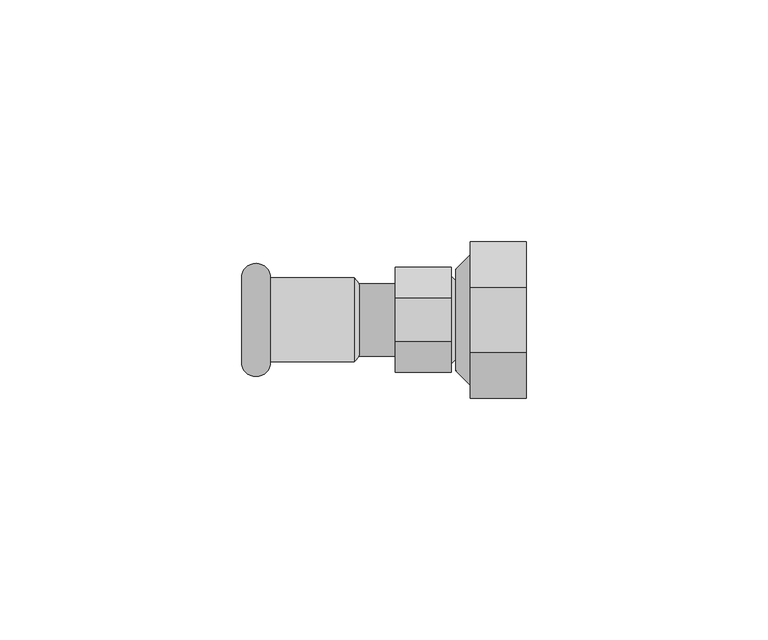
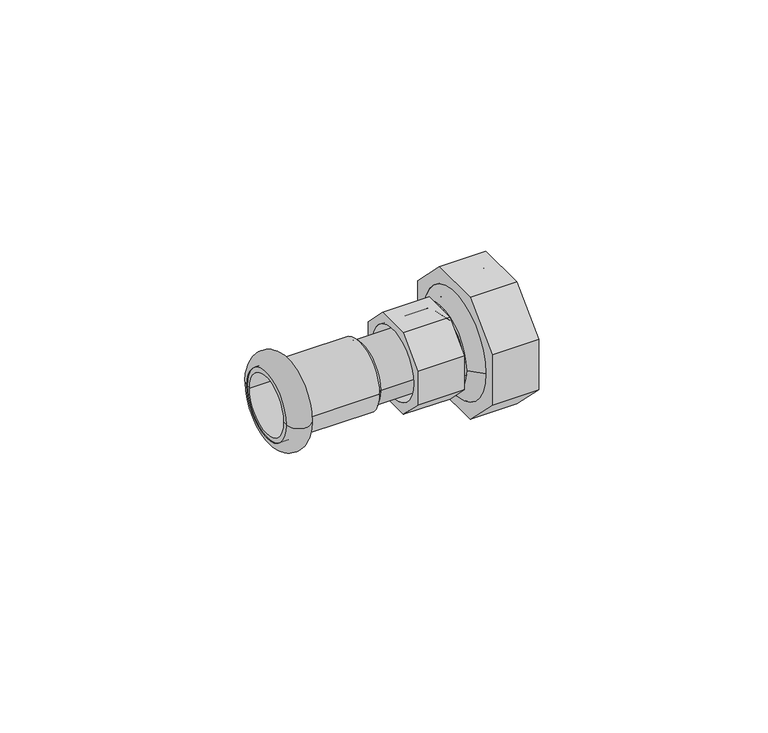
"""IFC4 building model written with IfcOpenShell, lengths in millimetres: pipe fitting geometry."""

from ifc_helpers import new_model, si_unit, point, frame, origin, origin_2d, place, context, project, spatial, polyline, circle_curve, ellipse_curve, trimmed, segment, composite_curve, outline, extrude, source, transform, mapped, element, save
from ifc_brep_helpers import plane_surface, cylinder_surface, revolved_surface, advanced_brep


def pipe_fitting_a139b20b(model_context):
    return source(origin(), model_context, "Body", "SolidModel", [
        advanced_brep(
        [(0.4444444, -10.863961, 4.5), (0.4444444, -4.5, 10.863961), (0.4444444, 4.5, 10.863961), (0.4444444, 10.863961, 4.5), (0.4444444, 10.863961, -4.5), (0.4444444, 4.5, -10.863961), (0.4444444, -4.5, -10.863961), (0.4444444, -10.863961, -4.5), (0.4444444, 9.0, 0.0), (0.4444444, -9.0, 0.0), (12.1111111, -10.863961, 4.5), (12.1111111, -10.863961, -4.5), (12.1111111, -4.5, -10.863961), (12.1111111, 4.5, -10.863961), (12.1111111, 10.863961, -4.5), (12.1111111, 10.863961, 4.5), (12.1111111, 4.5, 10.863961), (12.1111111, -4.5, 10.863961), (12.1111111, 9.0288231, 0.0), (12.1111111, -9.0288231, 0.0), (12.1111111, 9.0, 0.0), (12.1111111, -9.0, 0.0), (12.1111111, 6.0288231, 0.0), (12.1111111, -6.0288231, 0.0), (15.1111111, 6.0288231, 0.0), (15.1111111, -6.0288231, 0.0)],
        [
            (0, 1),
            (1, 2),
            (2, 3),
            (3, 4),
            (4, 5),
            (5, 6),
            (6, 7),
            (7, 0),
            (8, 9, circle_curve(frame((0.4444444, 0.0, 0.0), z_axis=(1.0, 0.0, 0.0), x_axis=(0.0, -1.0000000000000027, 0.0)), 9.0)),
            (9, 8, circle_curve(frame((0.4444444, 0.0, 0.0), z_axis=(1.0, 0.0, 0.0), x_axis=(0.0, -1.0000000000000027, 0.0)), 9.0)),
            (10, 11),
            (11, 12),
            (12, 13),
            (13, 14),
            (14, 15),
            (15, 16),
            (16, 17),
            (17, 10),
            (18, 19, circle_curve(frame((12.1111111, 0.0, 0.0), z_axis=(-1.0, 0.0, 0.0), x_axis=(0.0, -1.0000000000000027, 0.0)), 9.0288231)),
            (19, 18, circle_curve(frame((12.1111111, 0.0, 0.0), z_axis=(-1.0, 0.0, 0.0), x_axis=(0.0, 1.0000000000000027, 0.0)), 9.0288231)),
            (8, 20),
            (20, 21, circle_curve(frame((12.1111111, 0.0, 0.0), z_axis=(1.0, 0.0, 0.0), x_axis=(0.0, -1.0000000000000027, 0.0)), 9.0)),
            (21, 9),
            (21, 20, circle_curve(frame((12.1111111, 0.0, 0.0), z_axis=(1.0, 0.0, 0.0), x_axis=(0.0, -1.0000000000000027, 0.0)), 9.0)),
            (0, 10),
            (17, 1),
            (16, 2),
            (15, 3),
            (14, 4),
            (13, 5),
            (12, 6),
            (11, 7),
            (22, 23, circle_curve(frame((12.1111111, 0.0, 0.0), z_axis=(1.0, 0.0, 0.0), x_axis=(0.0, 1.0000000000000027, 0.0)), 6.0288231)),
            (23, 22, circle_curve(frame((12.1111111, 0.0, 0.0), z_axis=(1.0, 0.0, 0.0), x_axis=(0.0, -1.0000000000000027, 0.0)), 6.0288231)),
            (24, 25, circle_curve(frame((15.1111111, 0.0, 0.0), z_axis=(-1.0, 0.0, 0.0), x_axis=(0.0, -1.0000000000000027, 0.0)), 6.0288231)),
            (25, 19),
            (18, 24),
            (23, 25),
            (24, 22),
            (25, 24, circle_curve(frame((15.1111111, 0.0, 0.0), z_axis=(-1.0, 0.0, 0.0), x_axis=(0.0, 1.0000000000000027, 0.0)), 6.0288231)),
        ],
        [
            plane_surface(frame((0.4444444, -9.0, 0.0), z_axis=(-1.0, 0.0, 0.0), x_axis=(0.0, 0.0, -1.0))),
            plane_surface(frame((12.1111111, -9.0, 0.0), z_axis=(1.0, 0.0, 0.0), x_axis=(0.0, 0.0, 1.0))),
            revolved_surface(polyline([(12.1111111, -9.000000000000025, 0.0), (0.4444443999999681, -9.000000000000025, 0.0)]), (12.1111111, 0.0, 0.0), (1.0000000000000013, 0.0, 0.0)),
            plane_surface(frame((0.4444444, -10.863961, 4.5), z_axis=(0.0, -0.7071067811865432, 0.7071067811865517), x_axis=(1.0, 0.0, 0.0))),
            plane_surface(frame((0.4444444, -4.5, 10.863961), z_axis=(0.0, 0.0, 1.0), x_axis=(1.0, 0.0, 0.0))),
            plane_surface(frame((0.4444444, 4.5, 10.863961), z_axis=(0.0, 0.7071067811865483, 0.7071067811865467), x_axis=(1.0, 0.0, 0.0))),
            plane_surface(frame((0.4444444, 10.863961, 4.5), z_axis=(0.0, 1.0, 0.0), x_axis=(1.0, 0.0, 0.0))),
            plane_surface(frame((0.4444444, 10.863961, -4.5), z_axis=(0.0, 0.7071067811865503, -0.7071067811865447), x_axis=(1.0, 0.0, 0.0))),
            plane_surface(frame((0.4444444, 4.5, -10.863961), z_axis=(0.0, 0.0, -1.0), x_axis=(1.0, 0.0, 0.0))),
            plane_surface(frame((0.4444444, -4.5, -10.863961), z_axis=(0.0, -0.7071067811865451, -0.7071067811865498), x_axis=(1.0, 0.0, 0.0))),
            plane_surface(frame((0.4444444, -10.863961, -4.5), z_axis=(0.0, -1.0, 0.0), x_axis=(1.0, 0.0, 0.0))),
            plane_surface(frame((12.1111111, 0.0, 0.0), z_axis=(-1.0, 0.0, 0.0), x_axis=(0.0, 1.0, 0.0))),
            revolved_surface(polyline([(12.1111111, -9.0288231, 0.0), (15.1111111, -6.0288231, 0.0)]), (12.1111111, 0.0, 0.0), (1.0000000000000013, 0.0, 0.0)),
            revolved_surface(polyline([(15.11111110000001, -6.028823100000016, 0.0), (12.1111111, -6.028823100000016, 0.0)]), (12.1111111, 0.0, 0.0), (1.0000000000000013, 0.0, 0.0)),
            revolved_surface(polyline([(12.1111111, 9.0288231, 0.0), (15.1111111, 6.0288231, 0.0)]), (12.1111111, 0.0, 0.0), (1.0000000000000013, 0.0, 0.0)),
            revolved_surface(polyline([(15.11111110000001, 6.028823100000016, 0.0), (12.1111111, 6.028823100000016, 0.0)]), (12.1111111, 0.0, 0.0), (1.0000000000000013, 0.0, 0.0)),
        ],
        [
            (0, [[1, 2, 3, 4, 5, 6, 7, 8], [9, 10]]),
            (1, [[11, 12, 13, 14, 15, 16, 17, 18], [19, 20]]),
            (2, [[-9, 21, 22, 23]]),
            (2, [[-10, -23, 24, -21]]),
            (3, [[-1, 25, -18, 26]]),
            (4, [[-2, -26, -17, 27]]),
            (5, [[-3, -27, -16, 28]]),
            (6, [[-4, -28, -15, 29]]),
            (7, [[-5, -29, -14, 30]]),
            (8, [[-6, -30, -13, 31]]),
            (9, [[-7, -31, -12, 32]]),
            (10, [[-8, -32, -11, -25]]),
            (11, [[-22, -24], [33, 34]]),
            (12, [[35, 36, -19, 37]]),
            (13, [[-34, 38, -35, 39]]),
            (14, [[-36, 40, -37, -20]]),
            (15, [[-33, -39, -40, -38]]),
        ],
    ),
        advanced_brep(
        [(27.6666667, 16.2355862, 6.725), (27.6666667, 6.725, 16.2355862), (27.6666667, -6.725, 16.2355862), (27.6666667, -16.2355862, 6.725), (27.6666667, -16.2355862, -6.725), (27.6666667, -6.725, -16.2355862), (27.6666667, 6.725, -16.2355862), (27.6666667, 16.2355862, -6.725), (27.6666667, -13.45, 0.0), (27.6666667, 13.45, 0.0), (16.0, 16.2355862, 6.725), (16.0, 16.2355862, -6.725), (16.0, 6.725, -16.2355862), (16.0, -6.725, -16.2355862), (16.0, -16.2355862, -6.725), (16.0, -16.2355862, 6.725), (16.0, -6.725, 16.2355862), (16.0, 6.725, 16.2355862), (16.0, -13.4788231, 0.0), (16.0, 13.4788231, 0.0), (16.0, -13.45, 0.0), (16.0, 13.45, 0.0), (16.0, -10.4788231, 0.0), (16.0, 10.4788231, 0.0), (13.0, -10.4788231, 0.0), (13.0, 10.4788231, 0.0)],
        [
            (0, 1),
            (1, 2),
            (2, 3),
            (3, 4),
            (4, 5),
            (5, 6),
            (6, 7),
            (7, 0),
            (8, 9, circle_curve(frame((27.6666667, 0.0, 0.0), z_axis=(-1.0, 0.0, 0.0), x_axis=(0.0, 1.0, 0.0)), 13.45)),
            (9, 8, circle_curve(frame((27.6666667, 0.0, 0.0), z_axis=(-1.0, 0.0, 0.0), x_axis=(0.0, 1.0, 0.0)), 13.45)),
            (10, 11),
            (11, 12),
            (12, 13),
            (13, 14),
            (14, 15),
            (15, 16),
            (16, 17),
            (17, 10),
            (18, 19, circle_curve(frame((16.0, 0.0, 0.0), z_axis=(1.0, 0.0, 0.0), x_axis=(0.0, 1.0, 0.0)), 13.4788231)),
            (19, 18, circle_curve(frame((16.0, 0.0, 0.0), z_axis=(1.0, 0.0, 0.0), x_axis=(0.0, -1.0, 0.0)), 13.4788231)),
            (8, 20),
            (20, 21, circle_curve(frame((16.0, 0.0, 0.0), z_axis=(-1.0, 0.0, 0.0), x_axis=(0.0, 1.0, 0.0)), 13.45)),
            (21, 9),
            (21, 20, circle_curve(frame((16.0, 0.0, 0.0), z_axis=(-1.0, 0.0, 0.0), x_axis=(0.0, 1.0, 0.0)), 13.45)),
            (0, 10),
            (17, 1),
            (16, 2),
            (15, 3),
            (14, 4),
            (13, 5),
            (12, 6),
            (11, 7),
            (22, 23, circle_curve(frame((16.0, 0.0, 0.0), z_axis=(-1.0, 0.0, 0.0), x_axis=(0.0, -1.0, 0.0)), 10.4788231)),
            (23, 22, circle_curve(frame((16.0, 0.0, 0.0), z_axis=(-1.0, 0.0, 0.0), x_axis=(0.0, 1.0, 0.0)), 10.4788231)),
            (24, 25, circle_curve(frame((13.0, 0.0, 0.0), z_axis=(1.0, 0.0, 0.0), x_axis=(0.0, 1.0, 0.0)), 10.4788231)),
            (25, 19),
            (18, 24),
            (23, 25),
            (24, 22),
            (25, 24, circle_curve(frame((13.0, 0.0, 0.0), z_axis=(1.0, 0.0, 0.0), x_axis=(0.0, -1.0, 0.0)), 10.4788231)),
        ],
        [
            plane_surface(frame((27.6666667, 13.45, 0.0), z_axis=(1.0, 0.0, 0.0), x_axis=(0.0, 0.0, -1.0))),
            plane_surface(frame((16.0, 13.45, 0.0), z_axis=(-1.0, 0.0, 0.0), x_axis=(0.0, 0.0, 1.0))),
            revolved_surface(polyline([(16.0, 13.45, 0.0), (27.6666667, 13.45, 0.0)]), (16.0, 0.0, 0.0), (-1.0, 0.0, 0.0)),
            plane_surface(frame((27.6666667, 16.2355862, 6.725), z_axis=(0.0, 0.7071067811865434, 0.7071067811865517), x_axis=(-1.0, 0.0, 0.0))),
            plane_surface(frame((27.6666667, 6.725, 16.2355862), z_axis=(0.0, 0.0, 1.0), x_axis=(-1.0, 0.0, 0.0))),
            plane_surface(frame((27.6666667, -6.725, 16.2355862), z_axis=(0.0, -0.7071067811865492, 0.7071067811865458), x_axis=(-1.0, 0.0, 0.0))),
            plane_surface(frame((27.6666667, -16.2355862, 6.725), z_axis=(0.0, -1.0, 0.0), x_axis=(-1.0, 0.0, 0.0))),
            plane_surface(frame((27.6666667, -16.2355862, -6.725), z_axis=(0.0, -0.7071067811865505, -0.7071067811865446), x_axis=(-1.0, 0.0, 0.0))),
            plane_surface(frame((27.6666667, -6.725, -16.2355862), z_axis=(0.0, 0.0, -1.0), x_axis=(-1.0, 0.0, 0.0))),
            plane_surface(frame((27.6666667, 6.725, -16.2355862), z_axis=(0.0, 0.7071067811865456, -0.7071067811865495), x_axis=(-1.0, 0.0, 0.0))),
            plane_surface(frame((27.6666667, 16.2355862, -6.725), z_axis=(0.0, 1.0, 0.0), x_axis=(-1.0, 0.0, 0.0))),
            plane_surface(frame((16.0, 0.0, 0.0), z_axis=(1.0, 0.0, 0.0), x_axis=(0.0, -1.0, 0.0))),
            revolved_surface(polyline([(16.0, 13.4788231, 0.0), (13.0, 10.4788231, 0.0)]), (16.0, 0.0, 0.0), (-1.0, 0.0, 0.0)),
            revolved_surface(polyline([(13.0, 10.4788231, 0.0), (16.0, 10.4788231, 0.0)]), (16.0, 0.0, 0.0), (-1.0, 0.0, 0.0)),
            revolved_surface(polyline([(16.0, -13.4788231, 0.0), (13.0, -10.4788231, 0.0)]), (16.0, 0.0, 0.0), (-1.0, 0.0, 0.0)),
            revolved_surface(polyline([(13.0, -10.4788231, 0.0), (16.0, -10.4788231, 0.0)]), (16.0, 0.0, 0.0), (-1.0, 0.0, 0.0)),
        ],
        [
            (0, [[1, 2, 3, 4, 5, 6, 7, 8], [9, 10]]),
            (1, [[11, 12, 13, 14, 15, 16, 17, 18], [19, 20]]),
            (2, [[-9, 21, 22, 23]]),
            (2, [[-10, -23, 24, -21]]),
            (3, [[-1, 25, -18, 26]]),
            (4, [[-2, -26, -17, 27]]),
            (5, [[-3, -27, -16, 28]]),
            (6, [[-4, -28, -15, 29]]),
            (7, [[-5, -29, -14, 30]]),
            (8, [[-6, -30, -13, 31]]),
            (9, [[-7, -31, -12, 32]]),
            (10, [[-8, -32, -11, -25]]),
            (11, [[-22, -24], [33, 34]]),
            (12, [[35, 36, -19, 37]]),
            (13, [[-34, 38, -35, 39]]),
            (14, [[-36, 40, -37, -20]]),
            (15, [[-33, -39, -40, -38]]),
        ],
    ),
        advanced_brep(
        [(-31.3333333, 8.7, 0.0), (-31.3333333, -8.7, 0.0), (-25.3320406, -8.7, 0.0), (-25.3320406, 8.7, 0.0)],
        [
            (0, 1, circle_curve(frame((-31.3333333, 0.0, 0.0), z_axis=(-1.0, 0.0, 0.0), x_axis=(0.0, -1.0000000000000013, 0.0)), 8.7)),
            (1, 2),
            (2, 3, circle_curve(frame((-25.3320406, 0.0, 0.0), z_axis=(1.0, 0.0, 0.0), x_axis=(0.0, -1.0000000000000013, 0.0)), 8.7)),
            (3, 0),
            (1, 0, circle_curve(frame((-31.3333333, 0.0, 0.0), z_axis=(-1.0, 0.0, 0.0), x_axis=(0.0, -1.0000000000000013, 0.0)), 8.7)),
            (3, 2, circle_curve(frame((-25.3320406, 0.0, 0.0), z_axis=(1.0, 0.0, 0.0), x_axis=(0.0, -1.0000000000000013, 0.0)), 8.7)),
            (2, 1, circle_curve(frame((-28.332687, -8.7, 0.0), z_axis=(0.0, 0.0, -1.0000000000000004), x_axis=(-1.0000000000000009, 0.0, 0.0)), 3.0006464)),
            (0, 3, circle_curve(frame((-28.332687, 8.7, 0.0), z_axis=(0.0, 0.0, -1.0000000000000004), x_axis=(-1.0000000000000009, 0.0, 0.0)), 3.0006464)),
        ],
        [
            revolved_surface(polyline([(-25.332040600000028, -8.700000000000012, 0.0), (-31.333333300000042, -8.700000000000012, 0.0)]), (-8.0, 0.0, 0.0), (1.0000000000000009, 0.0, 0.0)),
            revolved_surface(trimmed(ellipse_curve(frame((-28.332687, -8.7, 0.0), z_axis=(0.0, 0.0, 1.0000000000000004), x_axis=(-1.0000000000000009, 0.0, 0.0)), 3.0006464, 3.0006464), [point((-31.3333333, -8.7, 0.0))], [point((-25.3320406, -8.7, 0.0))], True, "CARTESIAN"), (-8.0, 0.0, 0.0), (1.0000000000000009, 0.0, 0.0)),
        ],
        [
            (0, [[1, 2, 3, 4]]),
            (0, [[5, -4, 6, -2]]),
            (1, [[-3, 7, -1, 8]]),
            (1, [[-6, -8, -5, -7]]),
        ],
    ),
        advanced_brep(
        [(-31.3333333, 7.5, 0.0), (-31.3333333, -7.5, 0.0), (-7.0, -7.5, 0.0), (-7.0, 7.5, 0.0), (-31.3333333, 8.7, 0.0), (-31.3333333, -8.7, 0.0), (-8.0, 8.7, 0.0), (-8.0, -8.7, 0.0)],
        [
            (0, 1, circle_curve(frame((-31.3333333, 0.0, 0.0), z_axis=(-1.0, 0.0, 0.0), x_axis=(0.0, -1.0000000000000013, 0.0)), 7.5)),
            (1, 2),
            (2, 3, circle_curve(frame((-7.0, 0.0, 0.0), z_axis=(1.0, 0.0, 0.0), x_axis=(0.0, -1.0000000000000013, 0.0)), 7.5)),
            (3, 0),
            (1, 0, circle_curve(frame((-31.3333333, 0.0, 0.0), z_axis=(-1.0, 0.0, 0.0), x_axis=(0.0, -1.0000000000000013, 0.0)), 7.5)),
            (3, 2, circle_curve(frame((-7.0, 0.0, 0.0), z_axis=(1.0, 0.0, 0.0), x_axis=(0.0, -1.0000000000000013, 0.0)), 7.5)),
            (4, 5, circle_curve(frame((-31.3333333, 0.0, 0.0), z_axis=(-1.0, 0.0, 0.0), x_axis=(0.0, -1.0000000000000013, 0.0)), 8.7)),
            (5, 1),
            (0, 4),
            (5, 4, circle_curve(frame((-31.3333333, 0.0, 0.0), z_axis=(-1.0, 0.0, 0.0), x_axis=(0.0, -1.0000000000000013, 0.0)), 8.7)),
            (6, 7, circle_curve(frame((-8.0, 0.0, 0.0), z_axis=(-1.0, 0.0, 0.0), x_axis=(0.0, -1.0000000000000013, 0.0)), 8.7)),
            (7, 5),
            (4, 6),
            (7, 6, circle_curve(frame((-8.0, 0.0, 0.0), z_axis=(-1.0, 0.0, 0.0), x_axis=(0.0, -1.0000000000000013, 0.0)), 8.7)),
            (2, 7),
            (6, 3),
        ],
        [
            revolved_surface(polyline([(-6.999999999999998, -7.50000000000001, 0.0), (-31.333333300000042, -7.50000000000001, 0.0)]), (-8.0, 0.0, 0.0), (1.0000000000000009, 0.0, 0.0)),
            plane_surface(frame((-31.3333333, 0.0, 0.0), z_axis=(-1.0, 0.0, 0.0), x_axis=(0.0, -1.0, 0.0))),
            cylinder_surface(frame((-8.0, 0.0, 0.0), z_axis=(1.0000000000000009, 0.0, 0.0), x_axis=(0.0, -1.0000000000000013, 0.0)), 8.7),
            revolved_surface(polyline([(-8.0, -8.7, 0.0), (-7.0, -7.5, 0.0)]), (-8.0, 0.0, 0.0), (1.0000000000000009, 0.0, 0.0)),
        ],
        [
            (0, [[1, 2, 3, 4]]),
            (0, [[5, -4, 6, -2]]),
            (1, [[7, 8, -1, 9]]),
            (1, [[10, -9, -5, -8]]),
            (2, [[11, 12, -7, 13]]),
            (2, [[14, -13, -10, -12]]),
            (3, [[-3, 15, -11, 16]]),
            (3, [[-6, -16, -14, -15]]),
        ],
    ),
        extrude(outline(composite_curve([segment(trimmed(circle_curve(origin_2d(), 7.5), [point((-7.5, 0.0))], [point((7.5, 0.0))], False, "CARTESIAN"), True, "CONTINUOUS"), segment(trimmed(circle_curve(origin_2d(), 7.5), [point((7.5, 0.0))], [point((-7.5, 0.0))], False, "CARTESIAN"), True, "CONTINUOUS")], self_intersect=False)), frame((-8.0, 0.0, 0.0), z_axis=(1.0, 0.0, 0.0), x_axis=(0.0, 1.0, 0.0)), (0.0, 0.0, 1.0), 24.0),
    ])


if __name__ == "__main__":
    model = new_model("IFC4")
    model_context = context("Model", 3, world=origin())
    ifc_project = project(units=[si_unit("LENGTHUNIT", "METRE", prefix="MILLI")], contexts=[model_context])
    site = spatial("IfcSite", under=ifc_project)
    building = spatial("IfcBuilding", under=site)
    placement = place(None, origin())
    pipe_fitting_shape = pipe_fitting_a139b20b(model_context)
    element("IfcPipeFitting", 1, ObjectType="NLRS_50_PIF_UN_Mapress koper 3-d overgangskoppeling met binnendraad_geb : DN10-50-Rp2\" / d12-54-Rp2\"", at=placement, inside=building, context=model_context, shape_type="MappedRepresentation", body=[
        mapped(pipe_fitting_shape, transform((0.0, 0.0, 0.0), x_axis=(1.0, 0.0, 0.0), y_axis=(0.0, 1.0, 0.0), z_axis=(0.0, 0.0, 1.0))),
    ])
    save(model, "model.ifc")
